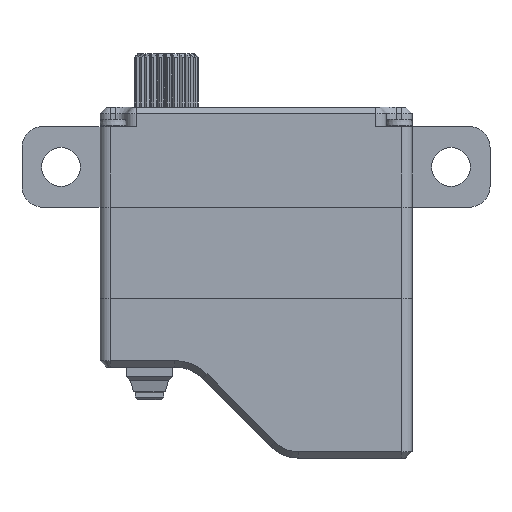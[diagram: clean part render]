
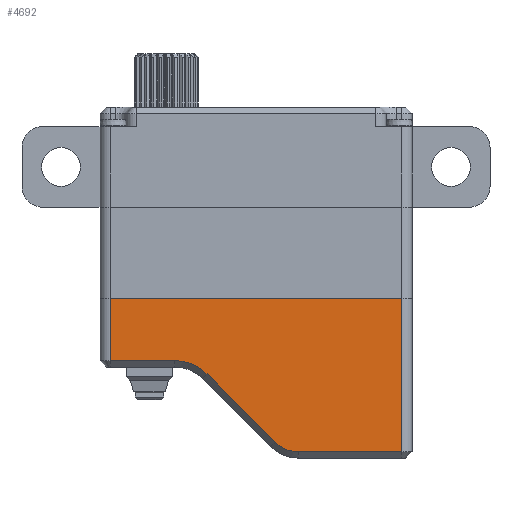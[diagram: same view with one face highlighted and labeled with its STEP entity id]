
A CAD part, front view. The second image highlights one B-rep face of the part: STEP entity #4692.
In plain terms, the highlighted planar face has unit normal (0, -1, 0).
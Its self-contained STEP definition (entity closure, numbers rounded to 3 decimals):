
#127 = DIRECTION ( 'NONE',  ( 0., 1., 0. ) ) ;
#631 = ORIENTED_EDGE ( 'NONE', *, *, #3833, .T. ) ;
#949 = VERTEX_POINT ( 'NONE', #11664 ) ;
#1173 = VERTEX_POINT ( 'NONE', #11836 ) ;
#1262 = DIRECTION ( 'NONE',  ( 0.707, 0., -0.707 ) ) ;
#1699 = EDGE_CURVE ( 'NONE', #15191, #8800, #17122, .T. ) ;
#1706 = LINE ( 'NONE', #8683, #15888 ) ;
#2237 = CARTESIAN_POINT ( 'NONE',  ( -67.214, -30.149, -2. ) ) ;
#2289 = DIRECTION ( 'NONE',  ( -1., 0., 0. ) ) ;
#2403 = ORIENTED_EDGE ( 'NONE', *, *, #8215, .T. ) ;
#2574 = LINE ( 'NONE', #12556, #7897 ) ;
#2640 = ORIENTED_EDGE ( 'NONE', *, *, #2922, .F. ) ;
#2691 = VECTOR ( 'NONE', #18195, 1000. ) ;
#2897 = VERTEX_POINT ( 'NONE', #5026 ) ;
#2922 = EDGE_CURVE ( 'NONE', #4437, #3144, #15541, .T. ) ;
#3053 = DIRECTION ( 'NONE',  ( 1., 0., 0. ) ) ;
#3144 = VERTEX_POINT ( 'NONE', #15938 ) ;
#3444 = DIRECTION ( 'NONE',  ( 0., 0., -1. ) ) ;
#3548 = VERTEX_POINT ( 'NONE', #12635 ) ;
#3833 = EDGE_CURVE ( 'NONE', #2897, #3548, #5964, .T. ) ;
#4361 = DIRECTION ( 'NONE',  ( -1., 0., 0. ) ) ;
#4437 = VERTEX_POINT ( 'NONE', #11737 ) ;
#4657 = ORIENTED_EDGE ( 'NONE', *, *, #8333, .T. ) ;
#4692 = ADVANCED_FACE ( 'NONE', ( #9914 ), #5169, .F. ) ;
#4971 = DIRECTION ( 'NONE',  ( 0., -1., 0. ) ) ;
#5026 = CARTESIAN_POINT ( 'NONE',  ( -61.457, -30.149, -6.3 ) ) ;
#5169 = PLANE ( 'NONE',  #9560 ) ;
#5199 = AXIS2_PLACEMENT_3D ( 'NONE', #13290, #4971, #11983 ) ;
#5261 = EDGE_CURVE ( 'NONE', #1173, #3144, #2574, .T. ) ;
#5964 = CIRCLE ( 'NONE', #16961, 3.5 ) ;
#6429 = ORIENTED_EDGE ( 'NONE', *, *, #13192, .T. ) ;
#7897 = VECTOR ( 'NONE', #11076, 1000. ) ;
#8215 = EDGE_CURVE ( 'NONE', #3548, #15191, #15189, .T. ) ;
#8333 = EDGE_CURVE ( 'NONE', #8800, #1173, #8981, .T. ) ;
#8683 = CARTESIAN_POINT ( 'NONE',  ( -61.457, -30.149, -6.3 ) ) ;
#8800 = VERTEX_POINT ( 'NONE', #12213 ) ;
#8981 = LINE ( 'NONE', #12715, #12306 ) ;
#9198 = EDGE_LOOP ( 'NONE', ( #14464, #6429, #631, #2403, #11397, #4657, #14578, #2640 ) ) ;
#9560 = AXIS2_PLACEMENT_3D ( 'NONE', #2237, #10761, #2289 ) ;
#9754 = CARTESIAN_POINT ( 'NONE',  ( -65.761, -30.149, -0.546 ) ) ;
#9914 = FACE_OUTER_BOUND ( 'NONE', #9198, .T. ) ;
#10057 = DIRECTION ( 'NONE',  ( 1., 0., 0. ) ) ;
#10761 = DIRECTION ( 'NONE',  ( 0., 1., 0. ) ) ;
#11076 = DIRECTION ( 'NONE',  ( 0., 0., 1. ) ) ;
#11397 = ORIENTED_EDGE ( 'NONE', *, *, #1699, .T. ) ;
#11664 = CARTESIAN_POINT ( 'NONE',  ( -66.414, -30.149, -6.3 ) ) ;
#11737 = CARTESIAN_POINT ( 'NONE',  ( -66.414, -30.149, -1.5 ) ) ;
#11836 = CARTESIAN_POINT ( 'NONE',  ( -44.014, -30.149, -13.3 ) ) ;
#11983 = DIRECTION ( 'NONE',  ( -1., 0., 0. ) ) ;
#12144 = CARTESIAN_POINT ( 'NONE',  ( -53.739, -30.149, -12.568 ) ) ;
#12213 = CARTESIAN_POINT ( 'NONE',  ( -51.972, -30.149, -13.3 ) ) ;
#12306 = VECTOR ( 'NONE', #10057, 1000. ) ;
#12530 = CARTESIAN_POINT ( 'NONE',  ( -55.214, -30.149, -1.5 ) ) ;
#12556 = CARTESIAN_POINT ( 'NONE',  ( -44.014, -30.149, -2. ) ) ;
#12635 = CARTESIAN_POINT ( 'NONE',  ( -58.982, -30.149, -7.325 ) ) ;
#12715 = CARTESIAN_POINT ( 'NONE',  ( -44.014, -30.149, -13.3 ) ) ;
#12757 = VECTOR ( 'NONE', #1262, 1000. ) ;
#13192 = EDGE_CURVE ( 'NONE', #949, #2897, #1706, .T. ) ;
#13290 = CARTESIAN_POINT ( 'NONE',  ( -51.972, -30.149, -10.8 ) ) ;
#14464 = ORIENTED_EDGE ( 'NONE', *, *, #16717, .T. ) ;
#14578 = ORIENTED_EDGE ( 'NONE', *, *, #5261, .T. ) ;
#14997 = VECTOR ( 'NONE', #3444, 1000. ) ;
#15189 = LINE ( 'NONE', #9754, #12757 ) ;
#15191 = VERTEX_POINT ( 'NONE', #12144 ) ;
#15438 = LINE ( 'NONE', #16208, #14997 ) ;
#15541 = LINE ( 'NONE', #12530, #2691 ) ;
#15888 = VECTOR ( 'NONE', #3053, 1000. ) ;
#15938 = CARTESIAN_POINT ( 'NONE',  ( -44.014, -30.149, -1.5 ) ) ;
#16208 = CARTESIAN_POINT ( 'NONE',  ( -66.414, -30.149, -2. ) ) ;
#16717 = EDGE_CURVE ( 'NONE', #4437, #949, #15438, .T. ) ;
#16914 = CARTESIAN_POINT ( 'NONE',  ( -61.457, -30.149, -9.8 ) ) ;
#16961 = AXIS2_PLACEMENT_3D ( 'NONE', #16914, #127, #4361 ) ;
#17122 = CIRCLE ( 'NONE', #5199, 2.5 ) ;
#18195 = DIRECTION ( 'NONE',  ( 1., 0., 0. ) ) ;
